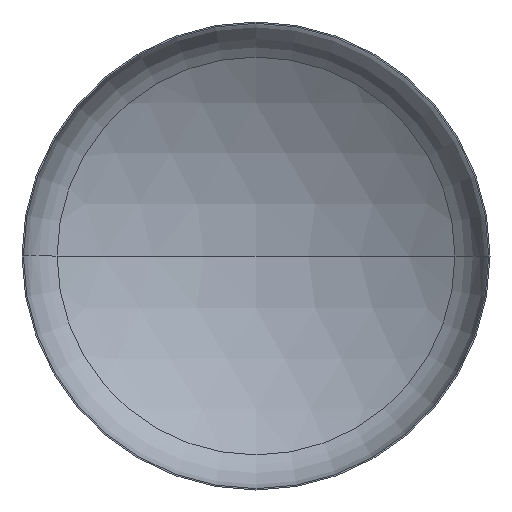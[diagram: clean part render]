
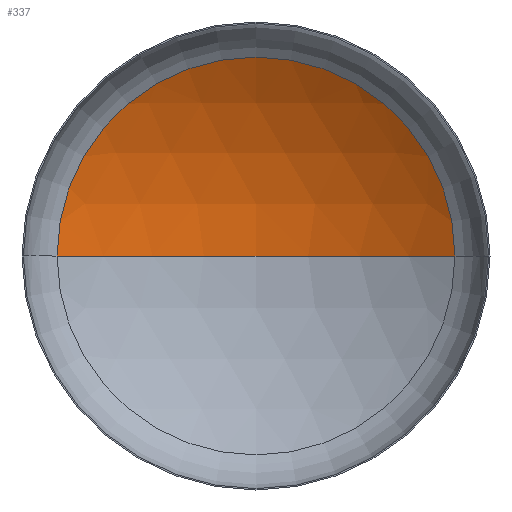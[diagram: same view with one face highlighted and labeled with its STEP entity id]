
A CAD part, front view. The second image highlights one B-rep face of the part: STEP entity #337.
In plain terms, the highlighted spherical face has radius 6400 mm.
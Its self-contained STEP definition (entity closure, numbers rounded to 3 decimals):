
#7 = AXIS2_PLACEMENT_3D ( 'NONE', #136, #405, #275 ) ;
#8 = DIRECTION ( 'NONE',  ( 1., 0., 0. ) ) ;
#25 = CARTESIAN_POINT ( 'NONE',  ( -3400.542, 1112.009, 0. ) ) ;
#31 = VERTEX_POINT ( 'NONE', #239 ) ;
#36 = ORIENTED_EDGE ( 'NONE', *, *, #104, .T. ) ;
#49 = ORIENTED_EDGE ( 'NONE', *, *, #108, .T. ) ;
#51 = AXIS2_PLACEMENT_3D ( 'NONE', #205, #226, #8 ) ;
#55 = AXIS2_PLACEMENT_3D ( 'NONE', #195, #190, #192 ) ;
#61 = VERTEX_POINT ( 'NONE', #241 ) ;
#67 = AXIS2_PLACEMENT_3D ( 'NONE', #287, #154, #175 ) ;
#104 = EDGE_CURVE ( 'NONE', #61, #217, #371, .T. ) ;
#108 = EDGE_CURVE ( 'NONE', #31, #61, #308, .T. ) ;
#115 = EDGE_CURVE ( 'NONE', #31, #217, #245, .T. ) ;
#122 = SPHERICAL_SURFACE ( 'NONE', #7, 6400. ) ;
#135 = ORIENTED_EDGE ( 'NONE', *, *, #115, .F. ) ;
#136 = CARTESIAN_POINT ( 'NONE',  ( 0., -4309.828, 0. ) ) ;
#154 = DIRECTION ( 'NONE',  ( 0., -1., 0. ) ) ;
#156 = EDGE_LOOP ( 'NONE', ( #135, #49, #36 ) ) ;
#175 = DIRECTION ( 'NONE',  ( 1., 0., 0. ) ) ;
#190 = DIRECTION ( 'NONE',  ( 0., 0., -1. ) ) ;
#192 = DIRECTION ( 'NONE',  ( -1., 0., 0. ) ) ;
#195 = CARTESIAN_POINT ( 'NONE',  ( 0., -4309.828, 0. ) ) ;
#205 = CARTESIAN_POINT ( 'NONE',  ( 0., -4309.828, 0. ) ) ;
#210 = FACE_OUTER_BOUND ( 'NONE', #156, .T. ) ;
#217 = VERTEX_POINT ( 'NONE', #25 ) ;
#226 = DIRECTION ( 'NONE',  ( 0., 0., 1. ) ) ;
#239 = CARTESIAN_POINT ( 'NONE',  ( 0., 2090.172, 0. ) ) ;
#241 = CARTESIAN_POINT ( 'NONE',  ( 3400.542, 1112.009, 0. ) ) ;
#245 = CIRCLE ( 'NONE', #51, 6400. ) ;
#275 = DIRECTION ( 'NONE',  ( -1., 0., 0. ) ) ;
#287 = CARTESIAN_POINT ( 'NONE',  ( 0., 1112.009, 0. ) ) ;
#308 = CIRCLE ( 'NONE', #55, 6400. ) ;
#337 = ADVANCED_FACE ( 'NONE', ( #210 ), #122, .F. ) ;
#371 = CIRCLE ( 'NONE', #67, 3400.542 ) ;
#405 = DIRECTION ( 'NONE',  ( 0., 0., -1. ) ) ;
